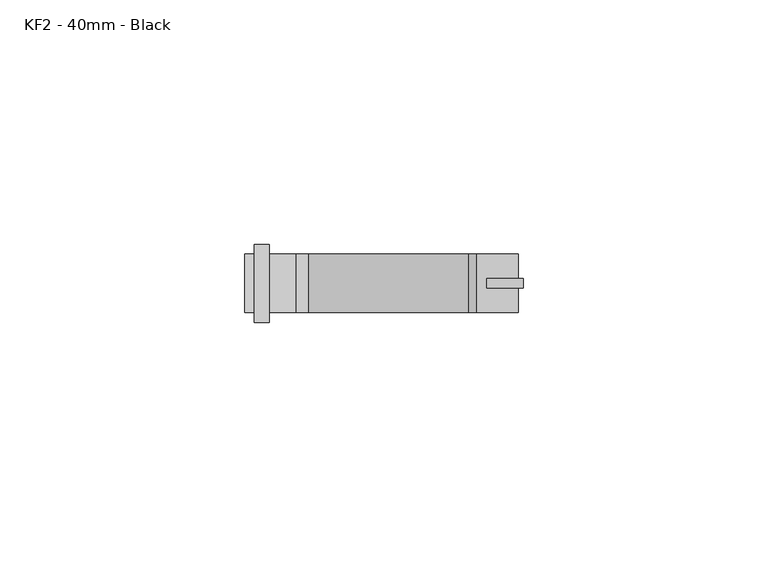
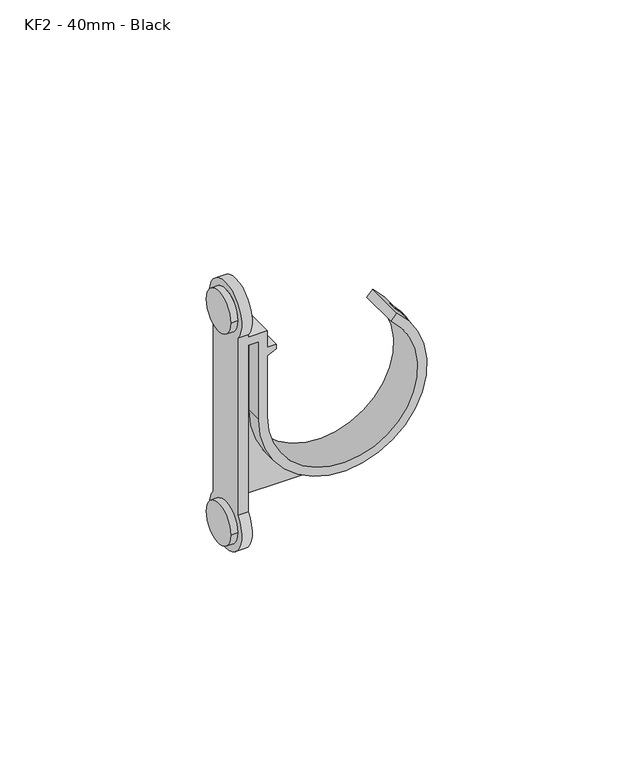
"""IFC4 building model written with IfcOpenShell, lengths in millimetres: pipe fitting geometry, MarleyPlumbingAndDrainage_PipeFitting_OpenPipeClip : KF2 - 40mm - Black."""

from ifc_helpers import new_model, si_unit, point, frame, frame_2d, origin, place, context, project, spatial, polyline, circle_curve, trimmed, segment, composite_curve, outline, extrude, source, transform, mapped, element, save
from ifc_brep_helpers import plane_surface, cylinder_surface, revolved_surface, advanced_brep


def kf2_40mm_black_470da472(model_context):
    return source(origin(), model_context, "Body", "SolidModel", [
        extrude(outline(composite_curve([segment(trimmed(circle_curve(frame_2d((0.0, -17.2849064)), 24.0), [point((16.4631955, 0.1782891))], [point((-23.9791576, -16.2849064))], True, "CARTESIAN"), True, "CONTINUOUS"), segment(trimmed(circle_curve(frame_2d((0.0, -17.2849064)), 24.0), [point((-23.9791576, -16.2849064))], [point((0.0, -41.2849064))], True, "CARTESIAN"), True, "CONTINUOUS"), segment(polyline([(0.0, -41.2849064), (23.5, -41.2849064), (23.5, -44.2849064), (-25.0, -44.2849064), (-25.0, -16.2849064)]), True, "CONTINUOUS"), segment(trimmed(circle_curve(frame_2d((-1.0, -16.2849064)), 24.0), [point((-25.0, -16.2849064))], [point((16.4631955, 0.1782891))], False, "CARTESIAN"), True, "CONTINUOUS")], self_intersect=False)), frame((0.0, -1.0, 0.0), z_axis=(0.0, 1.0, 0.0), x_axis=(0.0, 0.0, 1.0)), (0.0, 0.0, 1.0), 2.0),
        advanced_brep(
        [(-49.2849064, -6.0, 32.0), (-49.2849064, 6.0, 32.0), (-49.2849064, -6.0, -32.0), (-49.2849064, 6.0, -32.0), (-47.2849064, 6.0, 32.0), (-47.2849064, -6.0, 32.0), (-47.2849064, 6.0, -32.0), (-47.2849064, -6.0, -32.0), (-44.2849064, -6.0, -26.7084974), (-44.2849064, 6.0, -26.7084974), (-44.2849064, 6.0, 23.5), (-44.2849064, -6.0, 23.5), (-44.2849064, 6.0, 26.7084974), (-44.2849064, -6.0, 26.7084974), (-44.2849064, -6.0, 26.0), (-44.2849064, 6.0, 26.0), (-47.2849064, -6.0, 26.7084974), (-47.2849064, 6.0, 26.7084974), (-47.2849064, 6.0, -26.7084974), (-47.2849064, -6.0, -26.7084974), (-41.2849064, -6.0, 23.5), (-41.2849064, -6.0, 0.0), (-1.8580037, -6.0, 18.3850666), (-3.4649728, -6.0, 16.4699555), (-38.7849064, -6.0, 0.0), (-38.7849064, -6.0, 18.5), (-36.2849064, -6.0, 19.75), (-36.2849064, -6.0, 21.0), (-38.7849064, -6.0, 21.0), (-38.7849064, -6.0, 26.0), (-38.7849064, 6.0, 26.0), (-38.7849064, 6.0, 21.0), (-36.2849064, 6.0, 21.0), (-36.2849064, 6.0, 19.75), (-38.7849064, 6.0, 18.5), (-38.7849064, 6.0, 0.0), (-3.4649728, 6.0, 16.4699555), (-1.8580037, 6.0, 18.3850666), (-41.2849064, 6.0, 0.0), (-41.2849064, 6.0, 23.5)],
        [
            (0, 1, circle_curve(frame((-49.2849064, 0.0, 32.0), z_axis=(-1.0, 0.0, 0.0), x_axis=(0.0, 1.0, 0.0)), 6.0)),
            (1, 0, circle_curve(frame((-49.2849064, 0.0, 32.0), z_axis=(-1.0, 0.0, 0.0), x_axis=(0.0, 1.0, 0.0)), 6.0)),
            (2, 3, circle_curve(frame((-49.2849064, 0.0, -32.0), z_axis=(-1.0, 0.0, 0.0), x_axis=(0.0, 1.0, 0.0)), 6.0)),
            (3, 2, circle_curve(frame((-49.2849064, 0.0, -32.0), z_axis=(-1.0, 0.0, 0.0), x_axis=(0.0, 1.0, 0.0)), 6.0)),
            (1, 4),
            (4, 5, circle_curve(frame((-47.2849064, 0.0, 32.0), z_axis=(-1.0, 0.0, 0.0), x_axis=(0.0, 1.0, 0.0)), 6.0)),
            (5, 0),
            (5, 4, circle_curve(frame((-47.2849064, 0.0, 32.0), z_axis=(-1.0, 0.0, 0.0), x_axis=(0.0, 1.0, 0.0)), 6.0)),
            (3, 6),
            (6, 7, circle_curve(frame((-47.2849064, 0.0, -32.0), z_axis=(-1.0, 0.0, 0.0), x_axis=(0.0, 1.0, 0.0)), 6.0)),
            (7, 2),
            (7, 6, circle_curve(frame((-47.2849064, 0.0, -32.0), z_axis=(-1.0, 0.0, 0.0), x_axis=(0.0, 1.0, 0.0)), 6.0)),
            (8, 9, circle_curve(frame((-44.2849064, 0.0, -32.0), z_axis=(1.0, 0.0, 0.0), x_axis=(0.0, 1.0, 0.0)), 8.0)),
            (9, 10),
            (10, 11),
            (11, 8),
            (12, 13, circle_curve(frame((-44.2849064, 0.0, 32.0), z_axis=(1.0, 0.0, 0.0), x_axis=(0.0, 1.0, 0.0)), 8.0)),
            (13, 14),
            (14, 15),
            (15, 12),
            (16, 17, circle_curve(frame((-47.2849064, 0.0, 32.0), z_axis=(-1.0, 0.0, 0.0), x_axis=(0.0, 1.0, 0.0)), 8.0)),
            (17, 18),
            (18, 19, circle_curve(frame((-47.2849064, 0.0, -32.0), z_axis=(-1.0, 0.0, 0.0), x_axis=(0.0, 1.0, 0.0)), 8.0)),
            (19, 16),
            (19, 8),
            (11, 20),
            (20, 21),
            (21, 22, circle_curve(frame((-17.2849064, -6.0, 0.0), z_axis=(0.0, -1.0, 0.0), x_axis=(1.0, 0.0, 0.0)), 24.0)),
            (22, 23),
            (23, 24, circle_curve(frame((-17.2849064, -6.0, 0.0), z_axis=(0.0, 1.0, 0.0), x_axis=(1.0, 0.0, 0.0)), 21.5)),
            (24, 25),
            (25, 26),
            (26, 27),
            (27, 28),
            (28, 29),
            (29, 14),
            (13, 16),
            (18, 9),
            (17, 12),
            (15, 30),
            (30, 31),
            (31, 32),
            (32, 33),
            (33, 34),
            (34, 35),
            (35, 36, circle_curve(frame((-17.2849064, 6.0, 0.0), z_axis=(0.0, -1.0, 0.0), x_axis=(1.0, 0.0, 0.0)), 21.5)),
            (36, 37),
            (37, 38, circle_curve(frame((-17.2849064, 6.0, 0.0), z_axis=(0.0, 1.0, 0.0), x_axis=(1.0, 0.0, 0.0)), 24.0)),
            (38, 39),
            (39, 10),
            (21, 38),
            (37, 22),
            (23, 36),
            (35, 24),
            (28, 31),
            (30, 29),
            (39, 20),
            (34, 25),
            (26, 33),
            (32, 27),
        ],
        [
            plane_surface(frame((-49.2849064, 6.0, 32.0), z_axis=(-1.0, 0.0, 0.0), x_axis=(0.0, 0.0, -1.0))),
            cylinder_surface(frame((-49.2849064, 0.0, 32.0), z_axis=(1.0, 0.0, 0.0), x_axis=(0.0, 1.0, 0.0)), 6.0),
            cylinder_surface(frame((-17.2849064, 0.0, -32.0), z_axis=(1.0, 0.0, 0.0), x_axis=(0.0, 1.0, 0.0)), 6.0),
            plane_surface(frame((-44.2849064, -6.0, 26.7084974), z_axis=(1.0, 0.0, 0.0), x_axis=(0.0, 0.0, -1.0))),
            plane_surface(frame((-47.2849064, -6.0, 26.7084974), z_axis=(-1.0, 0.0, 0.0), x_axis=(0.0, 0.0, 1.0))),
            plane_surface(frame((-44.2849064, -6.0, 26.7084974), z_axis=(0.0, -1.0, 0.0), x_axis=(-1.0, 0.0, 0.0))),
            cylinder_surface(frame((-47.2849064, 0.0, -32.0), z_axis=(1.0, 0.0, 0.0), x_axis=(0.0, 1.0, 0.0)), 8.0),
            plane_surface(frame((-44.2849064, 6.0, -26.7084974), z_axis=(0.0, 1.0, 0.0), x_axis=(-1.0, 0.0, 0.0))),
            cylinder_surface(frame((-47.2849064, 0.0, 32.0), z_axis=(1.0, 0.0, 0.0), x_axis=(0.0, 1.0, 0.0)), 8.0),
            cylinder_surface(frame((-17.2849064, 6.0, 0.0), z_axis=(0.0, -1.0, 0.0), x_axis=(1.0, 0.0, 0.0)), 24.0),
            revolved_surface(polyline([(4.215093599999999, 6.0, 0.0), (4.215093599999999, -6.0, 0.0)]), (-17.2849064, 6.0, 0.0), (0.0, 1.0, 0.0)),
            plane_surface(frame((-38.7849064, -6.0, 21.0), z_axis=(1.0, 0.0, 0.0), x_axis=(0.0, 1.0, 0.0))),
            plane_surface(frame((-38.7849064, -6.0, 26.0), z_axis=(0.0, 0.0, 1.0), x_axis=(0.0, 1.0, 0.0))),
            plane_surface(frame((-44.2849064, -6.0, 23.5), z_axis=(0.0, 0.0, -1.0), x_axis=(0.0, 1.0, 0.0))),
            plane_surface(frame((-41.2849064, -6.0, 23.5), z_axis=(-1.0, 0.0, 0.0), x_axis=(0.0, 1.0, 0.0))),
            plane_surface(frame((-38.7849064, -6.0, 0.0), z_axis=(1.0, 0.0, 0.0), x_axis=(0.0, 1.0, 0.0))),
            plane_surface(frame((-36.2849064, -6.0, 19.75), z_axis=(1.0, 0.0, 0.0), x_axis=(0.0, 1.0, 0.0))),
            plane_surface(frame((-36.2849064, -6.0, 21.0), z_axis=(0.0, 0.0, 1.0), x_axis=(0.0, 1.0, 0.0))),
            plane_surface(frame((-1.8580037, -6.0, 18.3850666), z_axis=(-0.7660444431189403, 0.0, 0.6427876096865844), x_axis=(0.0, 1.0, 0.0))),
            plane_surface(frame((-38.7849064, -6.0, 18.5), z_axis=(0.4472135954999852, 0.0, -0.8944271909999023), x_axis=(0.0, 1.0, 0.0))),
        ],
        [
            (0, [[1, 2]]),
            (0, [[3, 4]]),
            (1, [[-2, 5, 6, 7]]),
            (1, [[-1, -7, 8, -5]]),
            (2, [[-4, 9, 10, 11]]),
            (2, [[-3, -11, 12, -9]]),
            (3, [[13, 14, 15, 16]]),
            (3, [[17, 18, 19, 20]]),
            (4, [[21, 22, 23, 24], [-6, -8], [-10, -12]]),
            (5, [[-24, 25, -16, 26, 27, 28, 29, 30, 31, 32, 33, 34, 35, 36, -18, 37]]),
            (6, [[-13, -25, -23, 38]]),
            (7, [[-22, 39, -20, 40, 41, 42, 43, 44, 45, 46, 47, 48, 49, 50, -14, -38]]),
            (8, [[-17, -39, -21, -37]]),
            (9, [[-28, 51, -48, 52]]),
            (10, [[-30, 53, -46, 54]]),
            (11, [[-35, 55, -41, 56]]),
            (12, [[-36, -56, -40, -19]]),
            (13, [[-26, -15, -50, 57]]),
            (14, [[-27, -57, -49, -51]]),
            (15, [[-31, -54, -45, 58]]),
            (16, [[-33, 59, -43, 60]]),
            (17, [[-34, -60, -42, -55]]),
            (18, [[-29, -52, -47, -53]]),
            (19, [[-32, -58, -44, -59]]),
        ],
    ),
    ])


if __name__ == "__main__":
    model = new_model("IFC4")
    model_context = context("Model", 3, world=origin())
    ifc_project = project(units=[si_unit("LENGTHUNIT", "METRE", prefix="MILLI")], contexts=[model_context])
    site = spatial("IfcSite", under=ifc_project)
    building = spatial("IfcBuilding", under=site)
    placement = place(None, origin())
    kf2_40mm_black_shape = kf2_40mm_black_470da472(model_context)
    element("IfcPipeFitting", 1, ObjectType="MarleyPlumbingAndDrainage_PipeFitting_OpenPipeClip : KF2 - 40mm - Black", at=placement, inside=building, context=model_context, shape_type="MappedRepresentation", body=[
        mapped(kf2_40mm_black_shape, transform((0.0, 0.0, 0.0), x_axis=(1.0, 0.0, 0.0), y_axis=(0.0, 1.0, 0.0), z_axis=(0.0, 0.0, 1.0))),
    ])
    save(model, "model.ifc")
